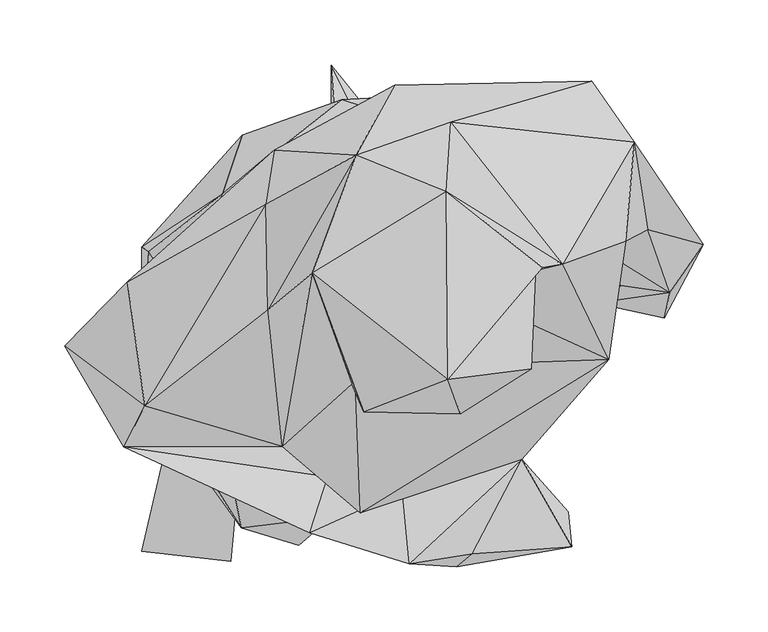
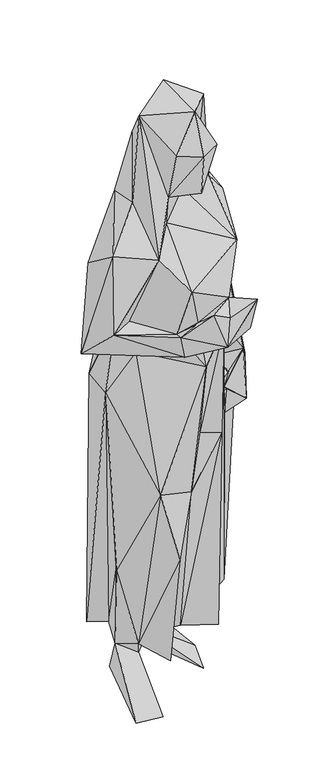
"""IFC4 building model written with IfcOpenShell, lengths in millimetres: geographic element geometry, Enscape AssetDefinition - Alexis 002 Standing : Enscape AssetDefinition - Alexis 002 Standing."""

from ifc_helpers import new_model, si_unit, origin, place, context, project, spatial, triangles, source, transform, mapped, element, save


def geographic_element_c7acbb05(model_context):
    return source(origin(), model_context, "Body", "Tessellation", [
        triangles([(-182.9191219, -183.5167598, 0.0), (-94.4527558, 25.6769256, 112.334277), (-120.8714194, 50.2049524, 0.0), (-114.3821443, -191.1912187, 0.0), (-144.8219742, -19.2330012, 117.8389282), (-101.4056108, -53.5075352, 96.9077658), (-82.896221, -171.8302094, 137.9124395), (-128.6637762, -101.2544391, 159.3535363), (-61.752408, -178.9675099, 425.1416734), (-75.9967648, -46.0910775, 139.2639105), (3.0163686, -122.6240014, 562.8918408), (-172.5790009, -72.9038031, 368.7669168), (-106.1856425, -165.4316355, 617.7972467), (-147.9784221, -28.1531076, 336.9675496), (-144.6617278, 12.7971431, 160.6183574), (-105.3995531, 137.5969973, 121.9648846), (-33.2415279, 142.1401975, 108.0722551), (-36.3143396, 75.2711459, 82.2875009), (-28.6560066, 164.9236905, 773.6255259), (-120.2586752, 92.365574, 965.7247015), (-182.8112796, 51.3276492, 149.2593396), (-177.2129295, 47.6713226, 863.4624842), (-183.5127085, -41.4229167, 864.1336641), (-140.0973625, -11.1906971, 1040.47479), (-123.2306958, -78.533415, 983.0115824), (-242.0451822, -25.33931, 986.3535295), (-39.4062929, -126.2198575, 1032.7700277), (-180.6182812, -71.608765, 1271.4895409), (-196.5789531, -103.2206799, 1070.4833508), (-38.1687004, -163.8846551, 989.5059534), (-53.385595, -169.3137205, 1053.6317631), (1.2486738, -144.5478539, 1054.9287769), (23.2884223, -193.2118621, 1106.2504263), (148.5992327, -180.1536839, 1100.7487999), (71.9635171, -185.4446763, 1077.3061174), (110.0344628, -112.566076, 1078.5055355), (177.0516566, -35.6753887, 1174.2220041), (145.7673017, -153.2764727, 1003.2211773), (60.1177467, -195.3887278, 1002.2436207), (-125.0064504, -51.3306695, 1054.9882936), (-74.6674673, -102.8225937, 1243.3777393), (-14.2020265, -154.0786948, 1161.3694456), (-51.4233873, 30.9850478, 1569.163813), (-85.5800143, 2.4167229, 1350.3030441), (-18.6494817, -42.4397878, 1294.2973057), (59.0454375, 18.2231791, 1331.630492), (-20.7739409, -54.4639448, 1376.1664364), (63.5110352, -63.3961395, 1363.1365631), (141.588923, 37.8593057, 1328.4286526), (145.8328046, 53.8632911, 1005.954368), (207.4078342, 64.7254415, 1024.1171402), (190.1138499, 55.8355726, 1263.3010872), (173.0718305, 48.2236008, 900.5709749), (224.2694867, 16.2730722, 814.1272688), (196.9377248, 132.0802556, 1262.2196125), (168.4177905, 55.990773, 788.5601521), (164.2464608, 67.098834, 665.1823631), (168.7815946, 12.0755529, 723.4376009), (186.5593248, 21.4955311, 758.4186052), (171.5681796, 19.7883043, 741.2325176), (220.1304225, -3.6402015, 683.4186047), (174.4394251, 17.6013614, 646.4945503), (201.5907838, 24.6550085, 653.5410679), (249.9050767, 52.9985955, 770.165708), (228.1838008, 52.3888671, 686.4470535), (186.4353498, 42.6222031, 147.8685724), (166.7075387, 8.0150955, 727.8850765), (82.5193, -111.0523512, 147.3011833), (100.3232278, -8.4867486, 141.4327188), (81.1506971, -129.5567177, 711.139369), (-1.8362257, -79.0625251, 154.4687146), (36.5148905, -104.0118017, 709.9793381), (28.5552247, -149.3026872, 929.9485422), (17.2254498, -128.4995239, 1047.4830832), (92.6709514, -120.5348029, 1006.2002832), (141.6090889, 146.4616815, 161.9627702), (45.1497832, 128.1115116, 144.5811095), (-36.835372, 191.5872701, 0.0), (35.1241165, 160.945881, 146.6622325), (105.7059297, 151.7738391, 734.7311703), (60.9663187, 169.9174082, 832.5197508), (176.9236666, 112.2677658, 862.4102955), (57.9811947, 136.6768591, 985.6439798), (121.8066639, 99.7911109, 1029.5966022), (12.1027633, 175.9944719, 1193.6767033), (-80.6709753, 125.8137049, 1202.4346716), (163.91187, 179.1065821, 1170.9909513), (55.5624606, 147.2719427, 1326.422089), (52.0835033, 93.8440357, 1598.5745178), (-87.2721167, 84.3645907, 1335.1376907), (-17.4038319, 121.8117054, 1456.28829), (53.1044121, -51.2177949, 1594.2611183), (125.9588269, 35.1079929, 1568.4510658), (117.3229259, -42.881208, 1473.270829), (121.2967114, 45.9923099, 1448.4595528), (-11.6653751, -76.2406498, 1503.4768341), (62.6090463, -77.7402766, 1475.5484516), (-126.4274756, 76.9108487, 1094.1375755), (-193.9636694, 24.2478522, 1200.6225729), (97.4157108, 25.0813111, 0.0), (67.71057, -66.514304, 0.0), (14.0780662, 88.486532, 92.133784)], [[78, 102, 100], [100, 101, 78], [100, 18, 101], [102, 18, 100], [78, 101, 18], [99, 90, 86], [86, 20, 98], [86, 98, 99], [95, 94, 48], [94, 97, 48], [97, 47, 48], [97, 96, 47], [96, 43, 47], [94, 92, 97], [92, 96, 97], [92, 43, 96], [92, 94, 95], [92, 95, 93], [95, 49, 93], [49, 89, 93], [89, 92, 93], [89, 43, 92], [43, 89, 91], [90, 91, 86], [44, 91, 90], [43, 91, 44], [89, 49, 88], [55, 88, 49], [88, 91, 89], [87, 55, 64], [88, 55, 87], [88, 87, 85], [85, 86, 91], [88, 85, 91], [85, 87, 84], [87, 64, 82], [87, 82, 84], [85, 84, 83], [83, 84, 82], [83, 86, 85], [83, 20, 86], [20, 83, 19], [83, 82, 81], [83, 81, 19], [82, 76, 80], [81, 82, 80], [81, 80, 79], [81, 79, 19], [17, 78, 18], [79, 17, 19], [102, 78, 17], [79, 77, 17], [76, 77, 80], [80, 77, 79], [17, 77, 102], [75, 32, 74], [74, 73, 75], [75, 73, 72], [72, 73, 11], [72, 70, 75], [70, 72, 11], [102, 77, 71], [11, 71, 70], [18, 102, 71], [70, 71, 68], [77, 76, 69], [77, 69, 71], [75, 70, 69], [69, 70, 68], [71, 69, 68], [67, 75, 69], [69, 76, 66], [67, 69, 66], [67, 66, 62], [63, 62, 66], [66, 57, 63], [57, 66, 76], [82, 64, 65], [57, 62, 65], [65, 63, 57], [65, 64, 61], [62, 63, 61], [63, 65, 61], [59, 65, 62], [61, 59, 62], [59, 60, 67], [59, 61, 58], [60, 59, 58], [58, 67, 62], [67, 58, 61], [65, 59, 56], [56, 60, 58], [60, 56, 67], [56, 58, 62], [82, 56, 76], [65, 56, 82], [56, 62, 57], [76, 56, 57], [61, 64, 54], [54, 59, 67], [61, 54, 67], [56, 59, 54], [53, 56, 54], [53, 75, 67], [56, 53, 67], [55, 51, 64], [51, 54, 64], [53, 54, 51], [55, 49, 52], [55, 52, 51], [52, 50, 51], [53, 50, 75], [50, 53, 51], [52, 49, 37], [50, 52, 37], [37, 75, 50], [95, 46, 49], [49, 46, 37], [46, 95, 48], [46, 48, 47], [47, 45, 46], [46, 45, 37], [37, 45, 42], [44, 41, 43], [47, 41, 45], [43, 41, 47], [42, 45, 41], [27, 73, 74], [74, 42, 27], [41, 27, 42], [40, 27, 41], [27, 32, 30], [32, 75, 39], [30, 32, 39], [38, 39, 75], [38, 34, 39], [38, 36, 34], [36, 37, 42], [36, 75, 37], [36, 38, 75], [42, 74, 36], [35, 34, 36], [34, 35, 39], [36, 74, 33], [33, 35, 36], [32, 33, 74], [39, 35, 33], [31, 33, 32], [33, 31, 39], [31, 30, 39], [31, 32, 27], [40, 41, 29], [27, 29, 31], [29, 27, 40], [31, 29, 30], [90, 99, 28], [44, 28, 41], [28, 44, 90], [28, 29, 41], [28, 26, 29], [30, 29, 26], [99, 26, 28], [73, 27, 25], [30, 25, 27], [25, 30, 26], [99, 98, 24], [98, 20, 24], [99, 24, 26], [26, 24, 25], [20, 22, 24], [22, 23, 24], [24, 23, 25], [20, 21, 22], [21, 23, 22], [19, 16, 20], [16, 17, 18], [19, 17, 16], [16, 21, 20], [18, 71, 2], [16, 18, 2], [16, 2, 15], [21, 16, 15], [21, 15, 23], [2, 5, 15], [14, 15, 5], [14, 23, 15], [14, 5, 12], [23, 14, 12], [13, 11, 73], [23, 12, 13], [73, 25, 13], [23, 13, 25], [13, 9, 11], [11, 9, 10], [11, 10, 71], [71, 10, 2], [10, 9, 7], [10, 7, 8], [12, 5, 8], [13, 12, 8], [13, 8, 9], [8, 7, 9], [2, 10, 6], [10, 8, 6], [8, 5, 6], [2, 6, 3], [3, 6, 4], [2, 3, 5], [6, 1, 4], [5, 3, 1], [3, 4, 1], [1, 6, 5]]),
    ])


if __name__ == "__main__":
    model = new_model("IFC4")
    model_context = context("Model", 3, world=origin())
    ifc_project = project(units=[si_unit("LENGTHUNIT", "METRE", prefix="MILLI")], contexts=[model_context])
    site = spatial("IfcSite", under=ifc_project)
    building = spatial("IfcBuilding", under=site)
    placement = place(None, origin())
    geographic_element_shape = geographic_element_c7acbb05(model_context)
    element("IfcGeographicElement", 1, ObjectType="Enscape AssetDefinition - Alexis 002 Standing : Enscape AssetDefinition - Alexis 002 Standing", at=placement, inside=building, context=model_context, shape_type="MappedRepresentation", body=[
        mapped(geographic_element_shape, transform((0.0, 0.0, 0.0), x_axis=(1.0, 0.0, 0.0), y_axis=(0.0, 1.0, 0.0), z_axis=(0.0, 0.0, 1.0))),
    ])
    save(model, "model.ifc")
